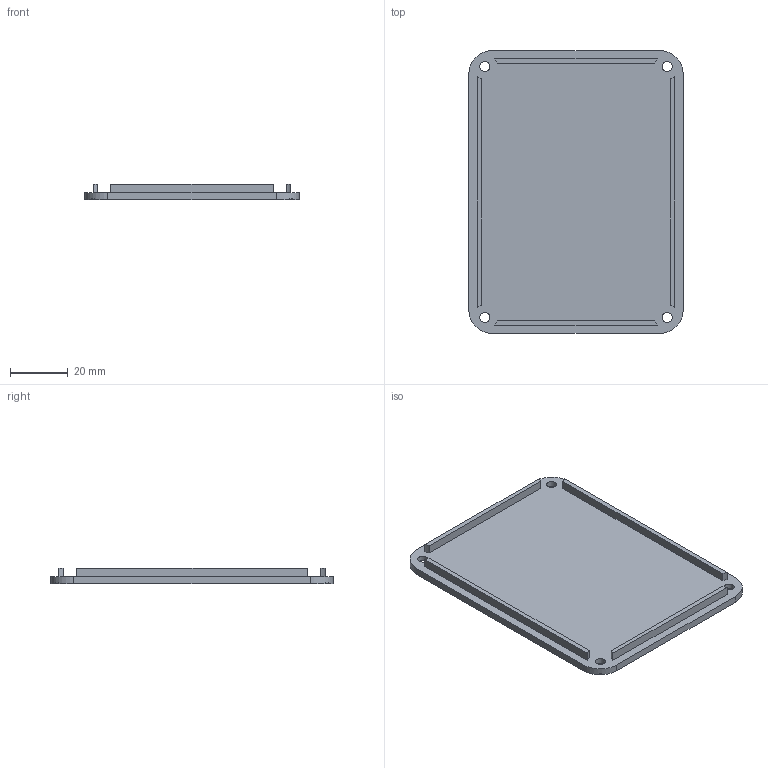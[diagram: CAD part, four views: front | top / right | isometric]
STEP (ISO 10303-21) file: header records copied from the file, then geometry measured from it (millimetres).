
FILE_DESCRIPTION(('Open CASCADE Model'),'2;1');
FILE_NAME('Open CASCADE Shape Model','2026-09-16T17:21:00',('Author'),( 'Open CASCADE'),'Open CASCADE STEP processor 7.9','Open CASCADE 7.9' ,'Unknown');
FILE_SCHEMA(('AUTOMOTIVE_DESIGN { 1 0 10303 214 1 1 1 1 }'));
Length unit declared in the file: millimetre
Products named in the file (1): Open CASCADE STEP translator 7.9 2
Bounding box: 74.21 x 97.9 x 5.5 mm (x, y, z)
Volume: 18910.1 mm3; surface area: 17042.4 mm2
Topology: 1 solids, 1 shells, 206 faces, 582 edges, 388 vertices
Faces by surface type: plane 186, cylinder 20
Full cylindrical faces by diameter (mm): 3.5 x4, 8.5 x4
Entity records: 13706 total; most frequent: CARTESIAN_POINT 3081, DIRECTION 1620, ORIENTED_EDGE 1164, PCURVE 1164, DEFINITIONAL_REPRESENTATION 1164, LINE 1118, VECTOR 1118, EDGE_CURVE 582
